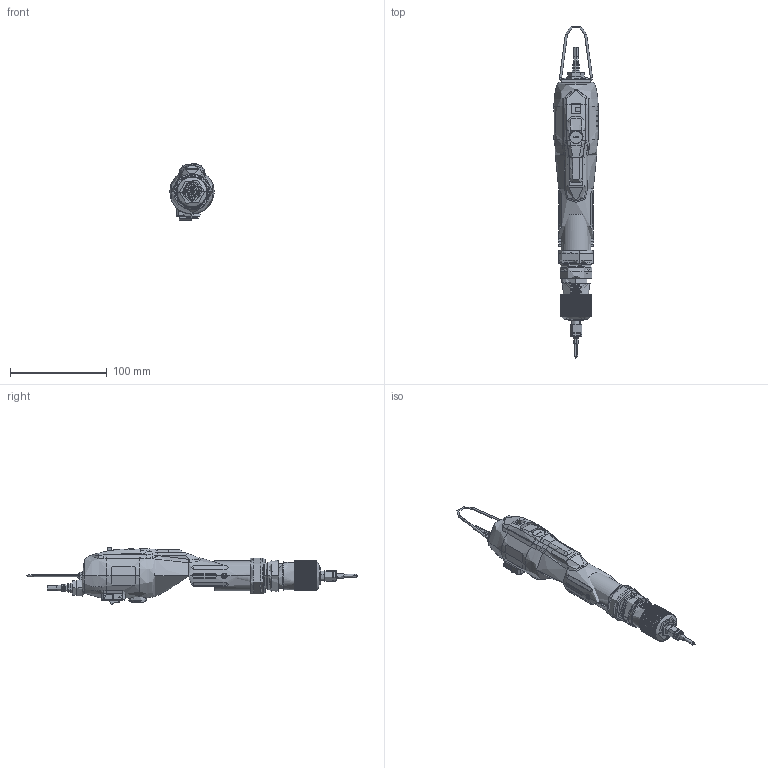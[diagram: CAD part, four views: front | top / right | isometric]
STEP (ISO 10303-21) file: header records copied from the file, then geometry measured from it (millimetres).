
FILE_DESCRIPTION (( 'STEP AP214' ), '1' );
FILE_NAME ('AC2220.STEP', '2018-05-25T07:59:45', ( '' ), ( '' ), 'SwSTEP 2.0', 'SolidWorks 2017', '' );
FILE_SCHEMA (( 'AUTOMOTIVE_DESIGN' ));
Length unit declared in the file: millimetre
Products named in the file (22): 沉頭M3X6L; 下基座檔套組合; AC2220; 電源線; 起子頭控制環回復彈簧; 正反轉開關; 按板; AC3380馬達; 1120外殼; 起子頭; 扭力調整頭; 下基座檔套; 起子頭控制環; 反轉開關.0011; 上基座; 下壓式主軸0108修改; AC機械式外殼鋁圈; 起子頭控制環用扣環; 下基座; AC3380馬達螺絲M2.6X14L; 起子吊勾
Assembly tree (24 placements, depth 3):
  AC2220
    下基座
    下壓式主軸0108修改
    上基座
    起子頭控制環
    起子頭控制環用扣環
    起子頭控制環回復彈簧
    下基座檔套組合
      下基座檔套
    扭力調整頭
    AC3380馬達
      (unnamed)
    起子頭
    1120外殼
    反轉開關.0011
    AC機械式外殼鋁圈
    沉頭M3X6L  x2
    AC3380馬達螺絲M2.6X14L  x3
    正反轉開關
    電源線
    按板
    起子吊勾
Bounding box: 46 x 343.9 x 59.4 mm (x, y, z)
Topology: 18 solids, 30 shells, 2294 faces, 5776 edges, 3527 vertices
Faces by surface type: cylinder 802, bspline 768, plane 539, cone 163, torus 22
Full cylindrical faces by diameter (mm): 20.05 x1, 31.28 x1
Entity records: 120065 total; most frequent: CARTESIAN_POINT 77718, ORIENTED_EDGE 9794, DIRECTION 6307, EDGE_CURVE 4922, VERTEX_POINT 3079, AXIS2_PLACEMENT_3D 2301, B_SPLINE_CURVE_WITH_KNOTS 2091, EDGE_LOOP 2050
